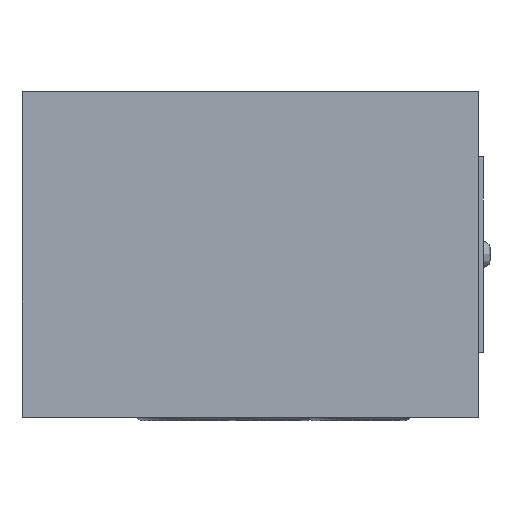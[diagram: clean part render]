
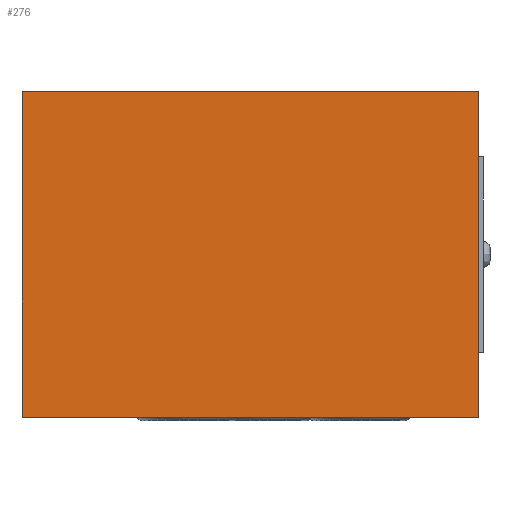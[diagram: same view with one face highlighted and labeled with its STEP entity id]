
A CAD part, left-side view. The second image highlights one B-rep face of the part: STEP entity #276.
In plain terms, the highlighted planar face has unit normal (-1, 0, 0).
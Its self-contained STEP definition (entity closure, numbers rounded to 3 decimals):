
#158=FACE_OUTER_BOUND('',#480,.T.);
#174=PLANE('',#1003);
#205=LINE('',#1391,#241);
#206=LINE('',#1393,#242);
#207=LINE('',#1395,#243);
#208=LINE('',#1397,#244);
#241=VECTOR('',#1125,1.);
#242=VECTOR('',#1128,1.);
#243=VECTOR('',#1129,1.);
#244=VECTOR('',#1130,1.);
#276=ADVANCED_FACE('',(#158),#174,.T.);
#480=EDGE_LOOP('',(#603,#604,#605,#606));
#603=ORIENTED_EDGE('',*,*,#864,.F.);
#604=ORIENTED_EDGE('',*,*,#863,.F.);
#605=ORIENTED_EDGE('',*,*,#865,.T.);
#606=ORIENTED_EDGE('',*,*,#866,.T.);
#776=VERTEX_POINT('',#1386);
#778=VERTEX_POINT('',#1390);
#779=VERTEX_POINT('',#1394);
#780=VERTEX_POINT('',#1396);
#863=EDGE_CURVE('',#778,#776,#205,.T.);
#864=EDGE_CURVE('',#776,#779,#206,.T.);
#865=EDGE_CURVE('',#778,#780,#207,.T.);
#866=EDGE_CURVE('',#780,#779,#208,.T.);
#1003=AXIS2_PLACEMENT_3D('',#1398,#1131,#1132);
#1125=DIRECTION('',(0.,0.,-1.));
#1128=DIRECTION('',(0.,1.,0.));
#1129=DIRECTION('',(0.,1.,0.));
#1130=DIRECTION('',(0.,0.,-1.));
#1131=DIRECTION('',(-1.,0.,0.));
#1132=DIRECTION('',(0.,0.,-1.));
#1386=CARTESIAN_POINT('',(30.585,117.327,0.));
#1390=CARTESIAN_POINT('',(30.585,117.327,50.));
#1391=CARTESIAN_POINT('',(30.585,117.327,50.));
#1393=CARTESIAN_POINT('',(30.585,152.327,0.));
#1394=CARTESIAN_POINT('',(30.585,187.327,0.));
#1395=CARTESIAN_POINT('',(30.585,117.327,50.));
#1396=CARTESIAN_POINT('',(30.585,187.327,50.));
#1397=CARTESIAN_POINT('',(30.585,187.327,50.));
#1398=CARTESIAN_POINT('',(30.585,152.327,50.));
